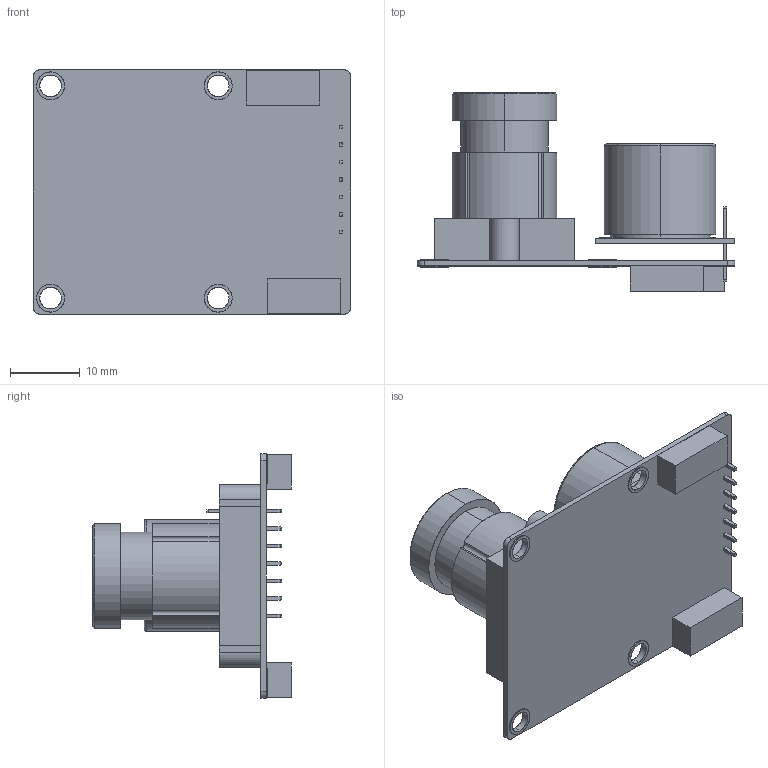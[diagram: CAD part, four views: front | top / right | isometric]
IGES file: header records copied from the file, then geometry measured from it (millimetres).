
Start section: SolidWorks IGES file using analytic representation for surfaces
Global section: file name: C:\Users\Luke\Documents\My CAD Files\Electronic Parts\PX4Flow.IGS; native system: SolidWorks 2014; preprocessor: SolidWorks 2014; author: Luke; date: 150408.190043; units: millimetre
Bounding box: 45.5 x 28.45 x 35 mm (x, y, z)
Surface area: 7956.6 mm2 (no closed solid volume)
Topology: 0 solids, 0 shells, 420 faces, 4441 edges, 4439 vertices
Faces by surface type: bspline 212, revolution 208
